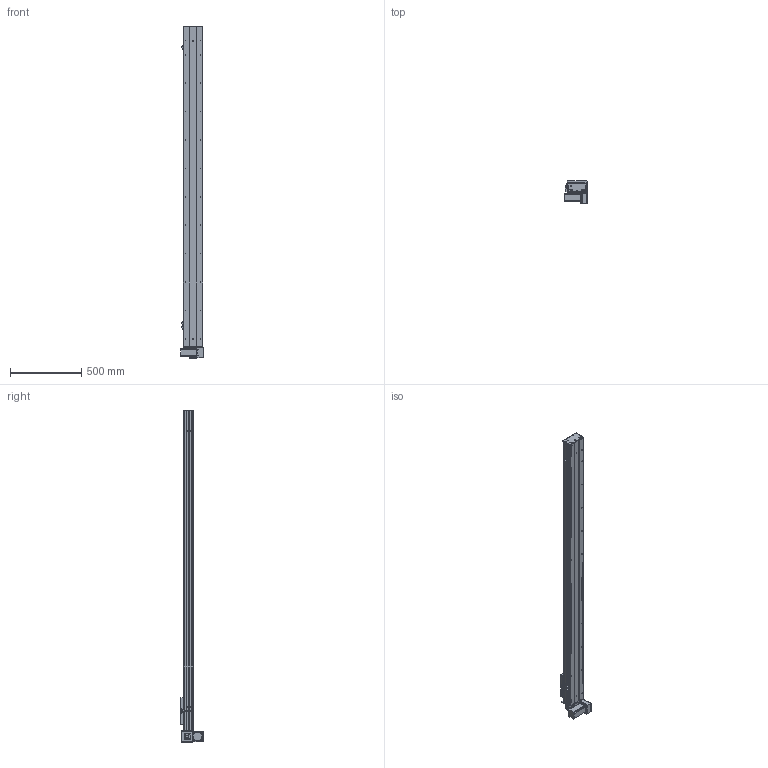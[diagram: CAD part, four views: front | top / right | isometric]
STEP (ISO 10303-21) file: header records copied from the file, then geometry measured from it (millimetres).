
FILE_DESCRIPTION (( 'STEP AP203' ), '1' );
FILE_NAME ('Y135CB-D90-S1950-BM-P400W.STEP', '2020-02-19T01:39:11', ( '微软用户' ), ( '微软中国' ), 'SwSTEP 2.0', 'SolidWorks 2017', '' );
FILE_SCHEMA (( 'CONFIG_CONTROL_DESIGN' ));
Length unit declared in the file: millimetre
Products named in the file (18): C-雄赽釱--; 0B-萇儂楊擘啣; Y10B--々湍喘謫眊--666; san松下电机400不带刹车----; 00B-俋欶BM--; 5CB --掛极耜裔啣-; Y10B-耜蚾蟀諉啣----; C-詩湍揤踡え-陔; Y135CB-耜裔; Y135CB-D90-S1950-BM-P400W; 135CB--詩湍-CE; 135CB---遴掛极.-; Y100-135俋离換覜ん--; 35CB---喘謫眊楊擘啣; Y135C-陔俋离換覜結え-; 0B-埴倛裔啣; 5C--俋欶; 0B-源倛裔啣
Assembly tree (21 placements, depth 2):
  Y135CB-D90-S1950-BM-P400W
    Y135CB-耜裔
    135CB---遴掛极.-
    35CB---喘謫眊楊擘啣
    0B-埴倛裔啣
    0B-源倛裔啣
    0B-萇儂楊擘啣
    san松下电机400不带刹车----
    5CB --掛极耜裔啣-  x2
    C-詩湍揤踡え-陔  x2
    135CB--詩湍-CE
    Y100-135俋离換覜ん--  x3
    Y135C-陔俋离換覜結え-
    5C--俋欶
    C-雄赽釱--
    Y10B--々湍喘謫眊--666
    00B-俋欶BM--
    Y10B-耜蚾蟀諉啣----
Bounding box: 157 x 163.3 x 2338 mm (x, y, z)
Volume: 6853461.4 mm3; surface area: 2706642 mm2
Topology: 21 solids, 21 shells, 965 faces, 2617 edges, 1734 vertices
Faces by surface type: cylinder 493, plane 456, cone 16
Entity records: 30359 total; most frequent: DIRECTION 5045, CARTESIAN_POINT 5032, ORIENTED_EDGE 4710, EDGE_CURVE 2355, AXIS2_PLACEMENT_3D 1847, VERTEX_POINT 1562, LINE 1351, VECTOR 1351
